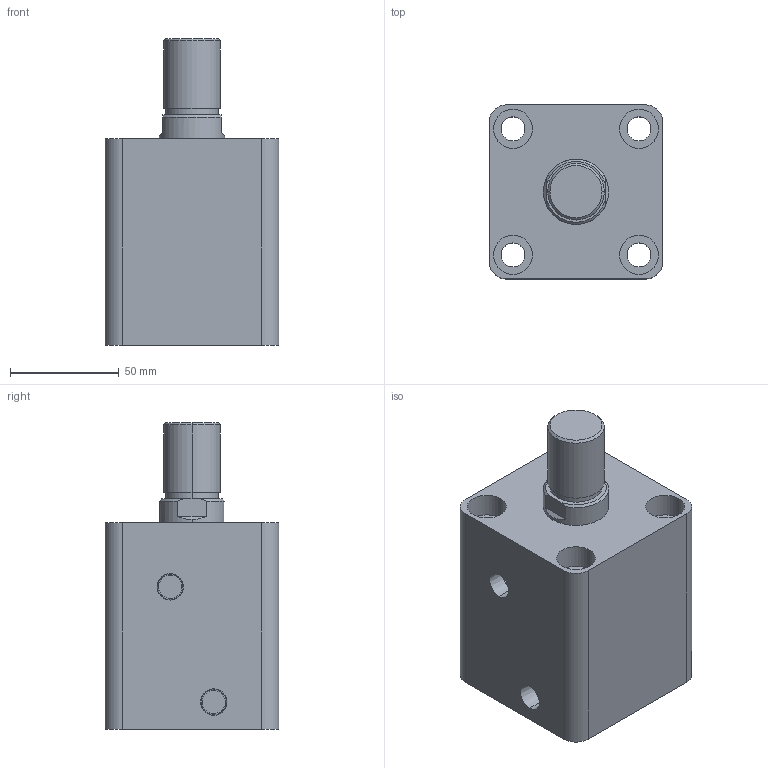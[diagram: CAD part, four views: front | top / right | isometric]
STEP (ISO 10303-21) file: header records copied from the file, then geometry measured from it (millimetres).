
FILE_DESCRIPTION (( 'STEP AP203' ), '1' );
FILE_NAME ('HTB-SD50-35W.STEP', '2019-10-07T07:08:25', ( '微软用户' ), ( '微软中国' ), 'SwSTEP 2.0', 'SolidWorks 2012', '' );
FILE_SCHEMA (( 'CONFIG_CONTROL_DESIGN' ));
Length unit declared in the file: millimetre
Products named in the file (3): HTB-SD50-35W; HTB-SD50-35W活塞杆; HTB-SD50-35掛极
Assembly tree (2 placements, depth 2):
  HTB-SD50-35W
    HTB-SD50-35掛极
    HTB-SD50-35W活塞杆
Bounding box: 80 x 80 x 141 mm (x, y, z)
Volume: 532060.3 mm3; surface area: 87867.1 mm2
Topology: 2 solids, 2 shells, 87 faces, 190 edges, 124 vertices
Faces by surface type: cylinder 44, plane 29, cone 8, torus 6
Entity records: 2761 total; most frequent: DIRECTION 478, CARTESIAN_POINT 434, ORIENTED_EDGE 380, AXIS2_PLACEMENT_3D 204, EDGE_CURVE 190, VERTEX_POINT 124, EDGE_LOOP 112, CIRCLE 112
